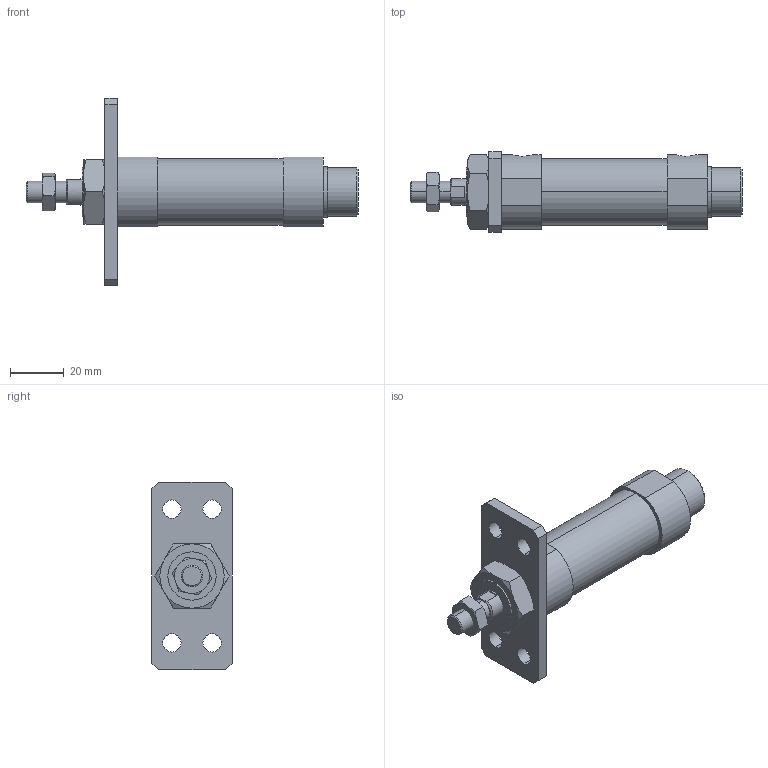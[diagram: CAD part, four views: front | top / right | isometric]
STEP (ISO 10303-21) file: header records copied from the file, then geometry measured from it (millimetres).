
FILE_DESCRIPTION (( 'STEP AP203' ), '1' );
FILE_NAME ('J#2-20-15-A.STEP', '2016-03-08T06:51:11', ( '' ), ( '' ), 'SwSTEP 2.0', 'SolidWorks 2014', '' );
FILE_SCHEMA (( 'CONFIG_CONTROL_DESIGN' ));
Length unit declared in the file: millimetre
Products named in the file (5): J#2-20-15; J#2-20-A; J#2-20-15-A
Assembly tree (4 placements, depth 2):
  J#2-20-15-A
    J#2-20-15
    (unnamed)
    (unnamed)
    J#2-20-A
Bounding box: 124 x 30 x 70 mm (x, y, z)
Volume: 57764 mm3; surface area: 17464.2 mm2
Topology: 4 solids, 4 shells, 112 faces, 252 edges, 158 vertices
Faces by surface type: plane 46, cylinder 36, torus 24, cone 6
Entity records: 4013 total; most frequent: CARTESIAN_POINT 985, DIRECTION 536, ORIENTED_EDGE 504, EDGE_CURVE 252, AXIS2_PLACEMENT_3D 221, VERTEX_POINT 158, EDGE_LOOP 136, ADVANCED_FACE 112
